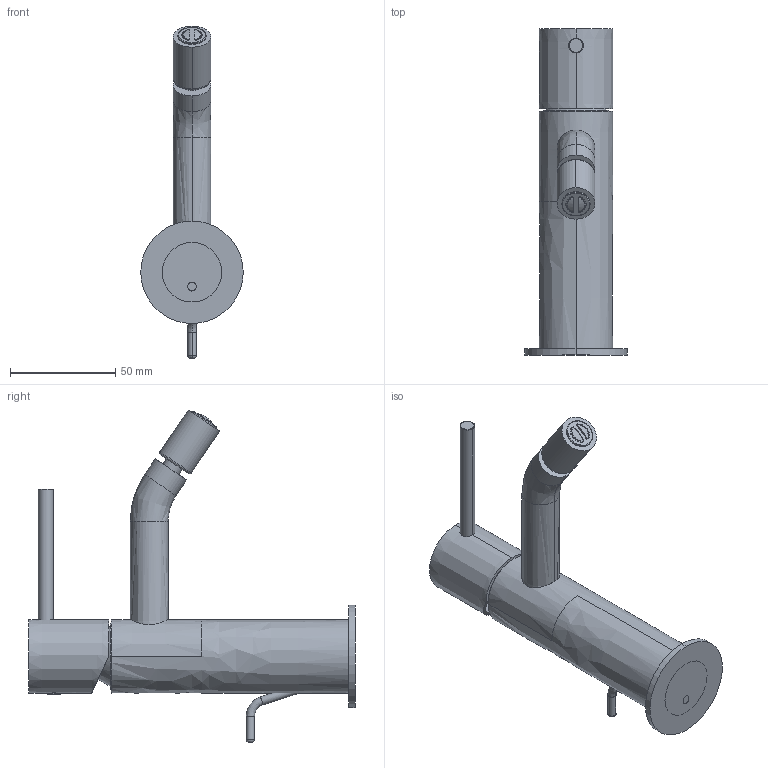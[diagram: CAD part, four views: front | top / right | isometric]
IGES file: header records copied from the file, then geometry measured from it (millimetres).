
Start section:  PTC IGES file: 69403.igs
Global section: file name: 69403.igs; native system: Creo Parametric by PTC Inc.; preprocessor: 2022014; author: carloff; organization: Unknown; date: 20240215.144339; units: millimetre
Bounding box: 48.8 x 155.3 x 158.06 mm (x, y, z)
Surface area: 48308.3 mm2 (no closed solid volume)
Topology: 0 solids, 0 shells, 372 faces, 1974 edges, 1960 vertices
Faces by surface type: revolution 266, bspline 106
